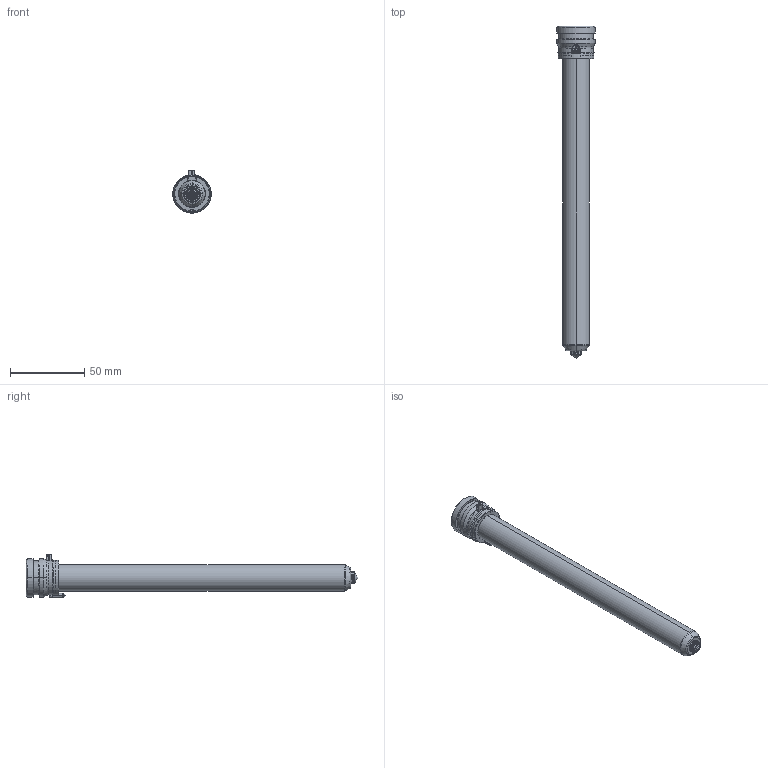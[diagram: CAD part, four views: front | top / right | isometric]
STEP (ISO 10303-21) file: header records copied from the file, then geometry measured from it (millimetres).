
FILE_DESCRIPTION((''),'2;1');
FILE_NAME('TH18206-A-1GLT-PK-JG','2023-12-14T',('umhib'),('Thermoplay S.p.A.'),'PRO/ENGINEER BY PARAMETRIC TECHNOLOGY CORPORATION, 2017170','PRO/ENGINEER BY PARAMETRIC TECHNOLOGY CORPORATION, 2017170','');
FILE_SCHEMA(('CONFIG_CONTROL_DESIGN'));
Length unit declared in the file: millimetre
Products named in the file (1): TH18206-A-1GLT-PK-JG
Bounding box: 26 x 224 x 29.5 mm (x, y, z)
Volume: 43948 mm3; surface area: 32160.4 mm2
Topology: 1 solids, 2 shells, 418 faces, 1085 edges, 675 vertices
Faces by surface type: cylinder 162, plane 90, cone 68, torus 62, bspline 24, sphere 10, extrusion 2
Entity records: 18174 total; most frequent: CARTESIAN_POINT 5903, DIRECTION 2181, ORIENTED_EDGE 2146, EDGE_CURVE 1075, AXIS2_PLACEMENT_3D 883, VERTEX_POINT 675, CIRCLE 490, EDGE_LOOP 443
